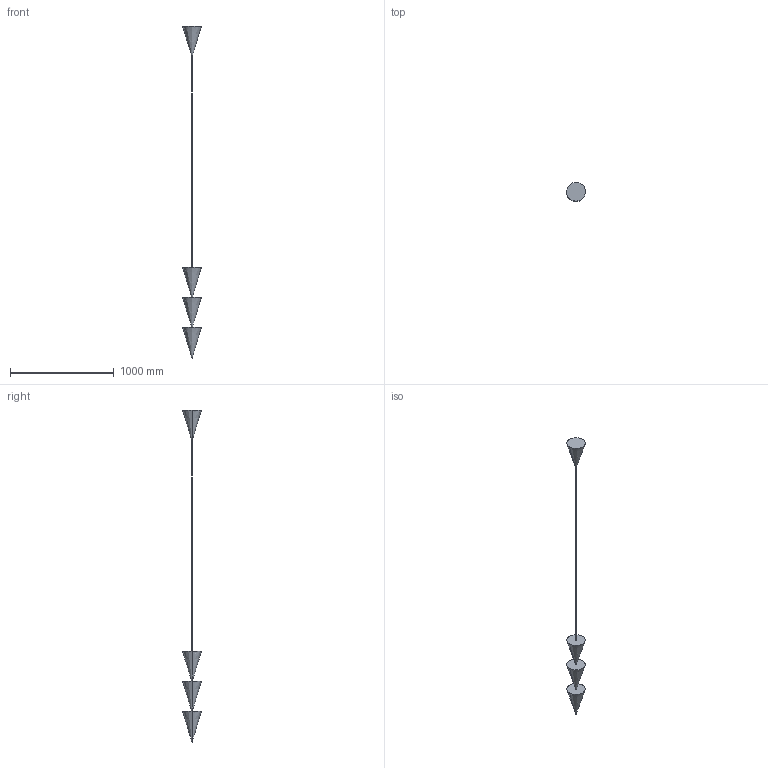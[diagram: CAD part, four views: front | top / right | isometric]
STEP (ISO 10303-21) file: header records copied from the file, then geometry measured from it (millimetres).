
FILE_DESCRIPTION(/* description */ (''),/* implementation_level */ '2;1');
FILE_NAME(/* name */ 'PEAKS-3-up',/* time_stamp */ '2023-08-21T17:04:33+01:00',/* author */ (''),/* organization */ (''),/* preprocessor_version */ 'ST-DEVELOPER v16.5',/* originating_system */ 'Rhino 7.32',/* authorisation */ '');
FILE_SCHEMA (('CONFIG_CONTROL_DESIGN'));
Length unit declared in the file: millimetre
Products named in the file (1): Document
Bounding box: 180 x 179.77 x 3200 mm (x, y, z)
Volume: 10231143 mm3; surface area: 484238.3 mm2
Topology: 1 solids, 1 shells, 17 faces, 34 edges, 21 vertices
Faces by surface type: bspline 10, plane 5, cylinder 2
Entity records: 577 total; most frequent: CARTESIAN_POINT 284, ORIENTED_EDGE 64, EDGE_CURVE 32, EDGE_LOOP 21, VERTEX_POINT 21, ADVANCED_FACE 17, FACE_OUTER_BOUND 17, DIRECTION 11
